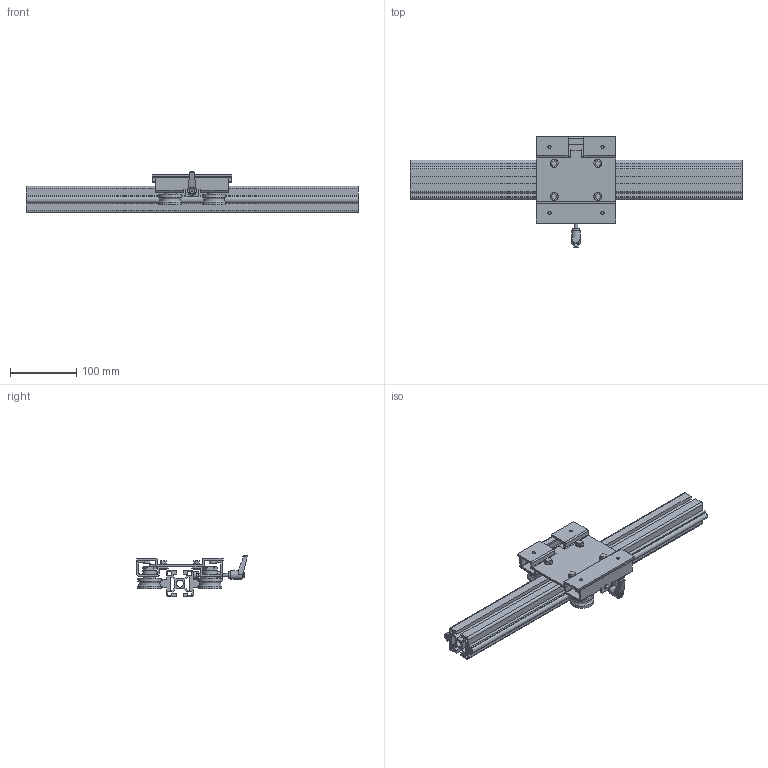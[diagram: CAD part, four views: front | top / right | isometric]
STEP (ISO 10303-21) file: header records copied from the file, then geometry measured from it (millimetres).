
FILE_DESCRIPTION((''),'2;1');
FILE_NAME('C:\Documents and Settings\土屋\My Documents\土屋移動用フォルダ\製品 (図面3D用)\LSダウンロード用図面\新型キャリッジ\step形式(ダウンロード用)\LS4040AC.stp','2018-08-03T16:13:45',('y'),(''),'Autodesk Inventor 11','Autodesk Inventor 11','');
FILE_SCHEMA(('AUTOMOTIVE_DESIGN { 1 0 10303 214 1 1 1 1 }'));
Length unit declared in the file: millimetre
Products named in the file (4): LS4040AC; LS4040ACレール; LS4040ACキャリッジ; LS4040AC用クランプ
Assembly tree (3 placements, depth 2):
  LS4040AC
    LS4040ACレール
    LS4040ACキャリッジ
    LS4040AC用クランプ
Bounding box: 500 x 166.5 x 63.1 mm (x, y, z)
Volume: 683623.7 mm3; surface area: 336034.8 mm2
Topology: 7 solids, 7 shells, 454 faces, 1143 edges, 733 vertices
Faces by surface type: plane 255, cylinder 110, cone 77, bspline 12
Full cylindrical faces by diameter (mm): 5 x2, 7 x1, 8 x1, 8.8 x4, 10 x4, 10.5 x1, 11 x4, 12 x8, 13 x1, 18 x4, 21 x4, 35 x8
Entity records: 13616 total; most frequent: CARTESIAN_POINT 3099, DIRECTION 2134, ORIENTED_EDGE 2110, EDGE_CURVE 1055, AXIS2_PLACEMENT_3D 760, VERTEX_POINT 716, VECTOR 614, LINE 614
